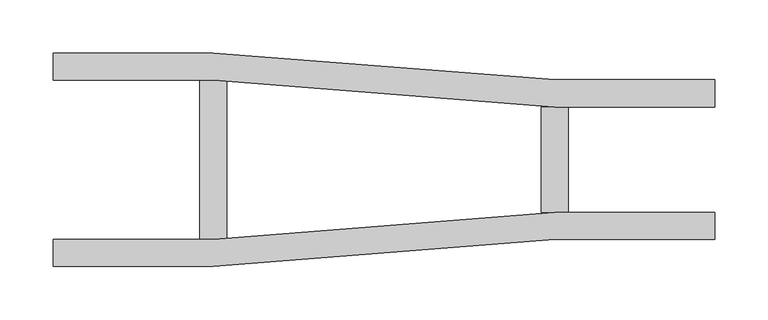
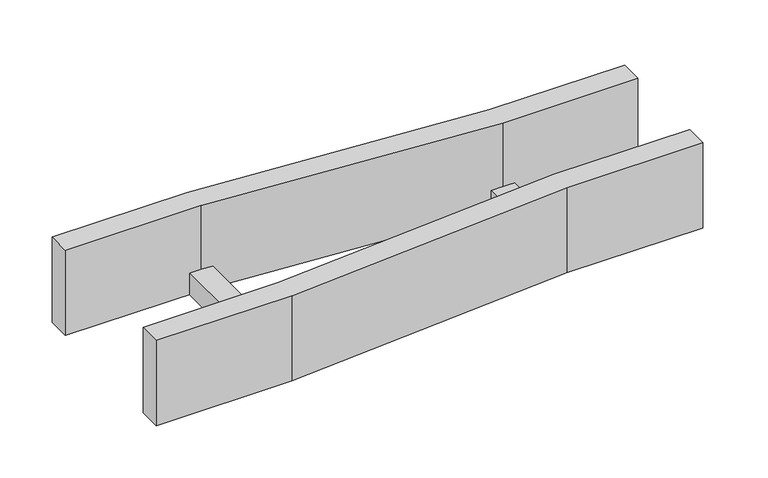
"""IFC4 building model written with IfcOpenShell, lengths in millimetres: cable carrier fitting geometry, BAKS_LD_RED_Straight reducer_RDSV : RDSVP_H100."""

from ifc_helpers import new_model, si_unit, frame, origin, place, context, project, spatial, polyline, outline, extrude, source, transform, mapped, element, save


def cable_carrier_fitting_1055d29a(model_context):
    return source(origin(), model_context, "Body", "SweptSolid", [
        extrude(outline(polyline([(0.0, -100.0), (0.0, -74.6), (150.0, -74.6), (470.0, -49.6), (620.0, -49.6), (620.0, -75.0), (470.0, -75.0), (150.0, -100.0), (0.0, -100.0)])), frame((0.0, 0.0, -50.0), z_axis=(0.0, 0.0, 1.0), x_axis=(1.0, 0.0, 0.0)), (0.0, 0.0, 1.0), 100.0),
        extrude(outline(polyline([(0.0, 74.6), (0.0, 100.0), (150.0, 100.0), (470.0, 75.0), (620.0, 75.0), (620.0, 49.6), (470.0, 49.6), (150.0, 74.6), (0.0, 74.6)])), frame((0.0, 0.0, -50.0), z_axis=(0.0, 0.0, 1.0), x_axis=(1.0, 0.0, 0.0)), (0.0, 0.0, 1.0), 100.0),
        extrude(outline(polyline([(457.3, 49.6), (482.7, 49.6), (482.7, -49.6), (457.3, -49.6), (457.3, 49.6)])), frame((0.0, 0.0, -50.0), z_axis=(0.0, 0.0, 1.0), x_axis=(1.0, 0.0, 0.0)), (0.0, 0.0, 1.0), 25.4),
        extrude(outline(polyline([(137.3, 74.6), (162.7, 74.6), (162.7, -74.6), (137.3, -74.6), (137.3, 74.6)])), frame((0.0, 0.0, -50.0), z_axis=(0.0, 0.0, 1.0), x_axis=(1.0, 0.0, 0.0)), (0.0, 0.0, 1.0), 25.4),
    ])


if __name__ == "__main__":
    model = new_model("IFC4")
    model_context = context("Model", 3, world=origin())
    ifc_project = project(units=[si_unit("LENGTHUNIT", "METRE", prefix="MILLI")], contexts=[model_context])
    site = spatial("IfcSite", under=ifc_project)
    building = spatial("IfcBuilding", under=site)
    placement = place(None, origin())
    cable_carrier_fitting_shape = cable_carrier_fitting_1055d29a(model_context)
    element("IfcCableCarrierFitting", 1, ObjectType="BAKS_LD_RED_Straight reducer_RDSV : RDSVP_H100", at=placement, inside=building, context=model_context, shape_type="MappedRepresentation", body=[
        mapped(cable_carrier_fitting_shape, transform((0.0, 0.0, 0.0), x_axis=(1.0, 0.0, 0.0), y_axis=(0.0, 1.0, 0.0), z_axis=(0.0, 0.0, 1.0))),
    ])
    save(model, "model.ifc")
